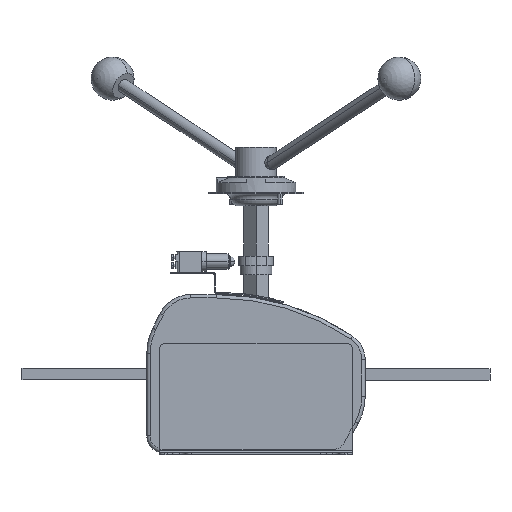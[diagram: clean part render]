
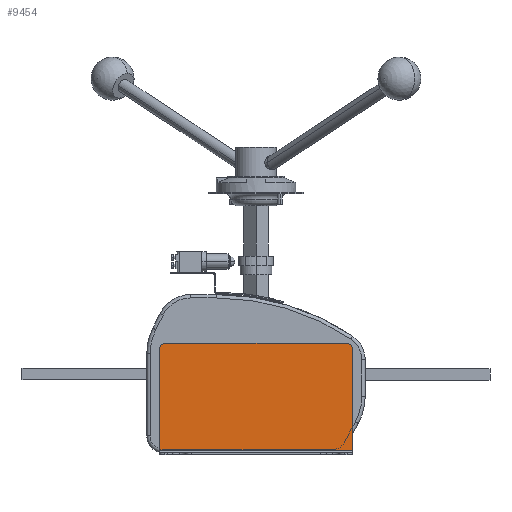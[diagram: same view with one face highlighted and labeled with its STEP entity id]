
A CAD part, left-side view. The second image highlights one B-rep face of the part: STEP entity #9454.
In plain terms, the highlighted planar face has unit normal (-1, 0, 0).
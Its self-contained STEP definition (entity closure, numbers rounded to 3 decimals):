
#244 = ORIENTED_EDGE ( 'NONE', *, *, #17603, .T. ) ;
#681 = VECTOR ( 'NONE', #18203, 1000. ) ;
#1635 = VECTOR ( 'NONE', #16813, 1000. ) ;
#1956 = CARTESIAN_POINT ( 'NONE',  ( -366.42, -85., 27. ) ) ;
#2223 = VERTEX_POINT ( 'NONE', #20830 ) ;
#2815 = LINE ( 'NONE', #19397, #15502 ) ;
#3596 = VERTEX_POINT ( 'NONE', #14785 ) ;
#3723 = LINE ( 'NONE', #1956, #1635 ) ;
#4227 = ORIENTED_EDGE ( 'NONE', *, *, #7594, .F. ) ;
#4230 = CIRCLE ( 'NONE', #13582, 5. ) ;
#4639 = EDGE_LOOP ( 'NONE', ( #10518, #13943, #5891, #244, #4227, #13722 ) ) ;
#5034 = EDGE_CURVE ( 'NONE', #3596, #13539, #21171, .T. ) ;
#5408 = PLANE ( 'NONE',  #21041 ) ;
#5505 = CIRCLE ( 'NONE', #11246, 5. ) ;
#5891 = ORIENTED_EDGE ( 'NONE', *, *, #12503, .T. ) ;
#5975 = CARTESIAN_POINT ( 'NONE',  ( -366.42, 80., 22. ) ) ;
#5988 = CARTESIAN_POINT ( 'NONE',  ( -366.42, -80., 22. ) ) ;
#7116 = DIRECTION ( 'NONE',  ( -1., 0., 0. ) ) ;
#7594 = EDGE_CURVE ( 'NONE', #10058, #11670, #2815, .T. ) ;
#8303 = CARTESIAN_POINT ( 'NONE',  ( -366.42, -85., -67. ) ) ;
#8614 = EDGE_CURVE ( 'NONE', #13539, #13407, #5505, .T. ) ;
#8791 = DIRECTION ( 'NONE',  ( 0., 0., 1. ) ) ;
#9454 = ADVANCED_FACE ( 'NONE', ( #11875 ), #5408, .T. ) ;
#10058 = VERTEX_POINT ( 'NONE', #17191 ) ;
#10507 = CARTESIAN_POINT ( 'NONE',  ( -366.42, -85., -67. ) ) ;
#10518 = ORIENTED_EDGE ( 'NONE', *, *, #5034, .T. ) ;
#10535 = CARTESIAN_POINT ( 'NONE',  ( -366.42, -80., 27. ) ) ;
#10689 = DIRECTION ( 'NONE',  ( 0., 0., 1. ) ) ;
#11246 = AXIS2_PLACEMENT_3D ( 'NONE', #5988, #15605, #10689 ) ;
#11670 = VERTEX_POINT ( 'NONE', #14134 ) ;
#11875 = FACE_OUTER_BOUND ( 'NONE', #4639, .T. ) ;
#12464 = EDGE_CURVE ( 'NONE', #3596, #10058, #20091, .T. ) ;
#12503 = EDGE_CURVE ( 'NONE', #13407, #2223, #3723, .T. ) ;
#13407 = VERTEX_POINT ( 'NONE', #10535 ) ;
#13539 = VERTEX_POINT ( 'NONE', #17349 ) ;
#13582 = AXIS2_PLACEMENT_3D ( 'NONE', #5975, #17574, #16030 ) ;
#13722 = ORIENTED_EDGE ( 'NONE', *, *, #12464, .F. ) ;
#13943 = ORIENTED_EDGE ( 'NONE', *, *, #8614, .T. ) ;
#14134 = CARTESIAN_POINT ( 'NONE',  ( -366.42, 85., 22. ) ) ;
#14427 = DIRECTION ( 'NONE',  ( 0., 0., 1. ) ) ;
#14785 = CARTESIAN_POINT ( 'NONE',  ( -366.42, -85., -67. ) ) ;
#15285 = DIRECTION ( 'NONE',  ( 0., 1., 0. ) ) ;
#15502 = VECTOR ( 'NONE', #14427, 1000. ) ;
#15605 = DIRECTION ( 'NONE',  ( -1., 0., 0. ) ) ;
#16030 = DIRECTION ( 'NONE',  ( 0., 0., 1. ) ) ;
#16442 = VECTOR ( 'NONE', #15285, 1000. ) ;
#16813 = DIRECTION ( 'NONE',  ( 0., 1., 0. ) ) ;
#16995 = CARTESIAN_POINT ( 'NONE',  ( -366.42, -85., -67. ) ) ;
#17191 = CARTESIAN_POINT ( 'NONE',  ( -366.42, 85., -67. ) ) ;
#17349 = CARTESIAN_POINT ( 'NONE',  ( -366.42, -85., 22. ) ) ;
#17574 = DIRECTION ( 'NONE',  ( -1., 0., 0. ) ) ;
#17603 = EDGE_CURVE ( 'NONE', #2223, #11670, #4230, .T. ) ;
#18203 = DIRECTION ( 'NONE',  ( 0., 0., 1. ) ) ;
#19397 = CARTESIAN_POINT ( 'NONE',  ( -366.42, 85., -67. ) ) ;
#20091 = LINE ( 'NONE', #10507, #16442 ) ;
#20830 = CARTESIAN_POINT ( 'NONE',  ( -366.42, 80., 27. ) ) ;
#21041 = AXIS2_PLACEMENT_3D ( 'NONE', #16995, #7116, #8791 ) ;
#21171 = LINE ( 'NONE', #8303, #681 ) ;
